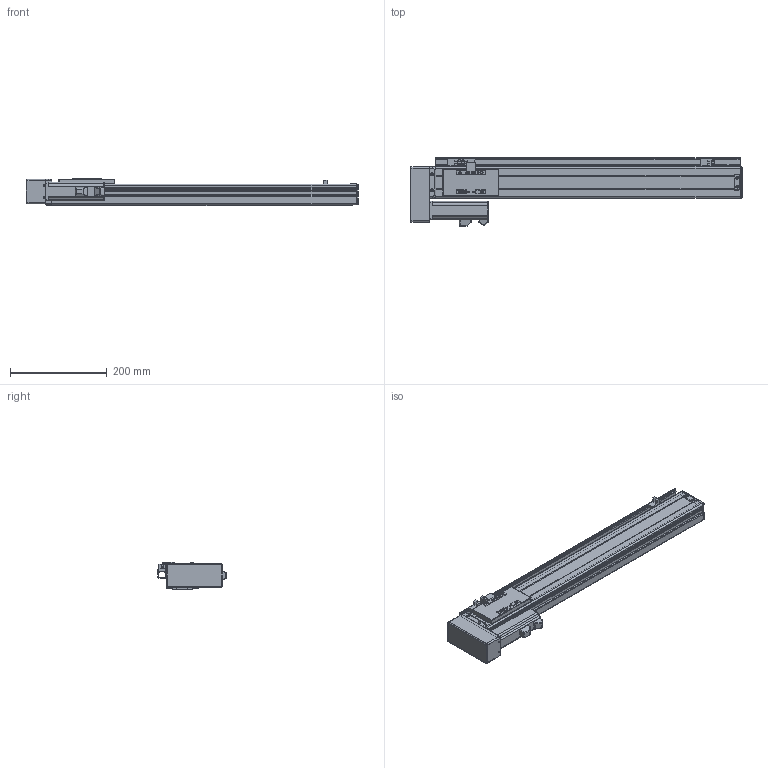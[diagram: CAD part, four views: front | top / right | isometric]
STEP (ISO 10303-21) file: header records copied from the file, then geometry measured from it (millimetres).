
FILE_DESCRIPTION (( 'STEP AP203' ), '1' );
FILE_NAME ('VT6-S480-BL.STEP', '2016-06-17T09:50:22', ( '' ), ( '' ), 'SwSTEP 2.0', 'SolidWorks 2013', '' );
FILE_SCHEMA (( 'CONFIG_CONTROL_DESIGN' ));
Length unit declared in the file: millimetre
Products named in the file (17): ET6-BLRM絳寢_俴最480; ET6-BC耜啣_480; ET6-BLRM滅鳥湍_480; ET6-BC癹弇羲壽羞_480; ET6-BLRM佪裝_480; T6-賑雄殤; T6-BMLRヶ傷裔; T6-裔啣; T6-BMRLヶ傷裔揤啣; T6-揤輸; T6-BMRL肮祭湍謫欶; T6-覜茼え; T6-BRL萇儂假蚾啣; T6-綴傷裔; 侂狟100W MSMD012G1V; EE-XS674; VT6-S480-BL
Assembly tree (19 placements, depth 2):
  VT6-S480-BL
    ET6-BC耜啣_480  x2
    ET6-BC癹弇羲壽羞_480
    T6-賑雄殤
    T6-裔啣
    T6-揤輸
    T6-覜茼え
    T6-綴傷裔
    EE-XS674  x3
    ET6-BLRM絳寢_俴最480
    ET6-BLRM滅鳥湍_480
    ET6-BLRM佪裝_480
    T6-BMLRヶ傷裔
    T6-BMRLヶ傷裔揤啣
    T6-BMRL肮祭湍謫欶
    T6-BRL萇儂假蚾啣
    侂狟100W MSMD012G1V
Bounding box: 687 x 141 x 56 mm (x, y, z)
Volume: 885165.8 mm3; surface area: 535496.6 mm2
Topology: 19 solids, 19 shells, 905 faces, 2400 edges, 1520 vertices
Faces by surface type: cylinder 431, plane 374, cone 46, torus 36, sphere 18
Entity records: 27989 total; most frequent: CARTESIAN_POINT 4705, DIRECTION 4686, ORIENTED_EDGE 4318, EDGE_CURVE 2159, AXIS2_PLACEMENT_3D 1721, VERTEX_POINT 1380, LINE 1244, VECTOR 1244
